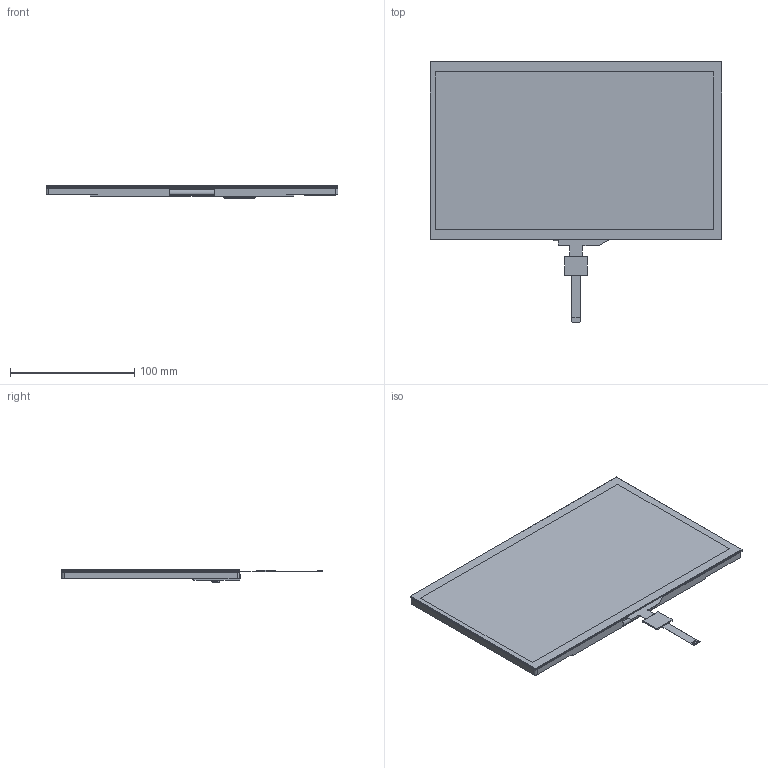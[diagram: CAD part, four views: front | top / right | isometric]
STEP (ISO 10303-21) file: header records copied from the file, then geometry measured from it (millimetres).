
FILE_DESCRIPTION (( 'STEP AP214' ), '1' );
FILE_NAME ('NHD-10.1-1024600AF-LSXV-CTP.STEP', '2017-11-16T17:46:49', ( '' ), ( '' ), 'SwSTEP 2.0', 'SolidWorks 2017', '' );
FILE_SCHEMA (( 'AUTOMOTIVE_DESIGN' ));
Length unit declared in the file: millimetre
Products named in the file (8): NHD-CTP-10.1; ADS; Sensor; LOCA; Cover; 541044031; NHD-10.1-1024600AF-Display; NHD-10.1-1024600AF-LSXV-CTP
Assembly tree (7 placements, depth 3):
  NHD-10.1-1024600AF-LSXV-CTP
    NHD-10.1-1024600AF-Display
    541044031
    NHD-CTP-10.1
      Cover
      LOCA
      Sensor
      ADS
Bounding box: 235 x 209.49 x 9.72 mm (x, y, z)
Volume: 262784.2 mm3; surface area: 344569.1 mm2
Topology: 9 solids, 9 shells, 1802 faces, 5720 edges, 3784 vertices
Faces by surface type: plane 1557, cylinder 243, bspline 2
Entity records: 64246 total; most frequent: ORIENTED_EDGE 11440, CARTESIAN_POINT 11391, DIRECTION 9810, EDGE_CURVE 5720, LINE 5228, VECTOR 5228, VERTEX_POINT 3784, AXIS2_PLACEMENT_3D 2291
